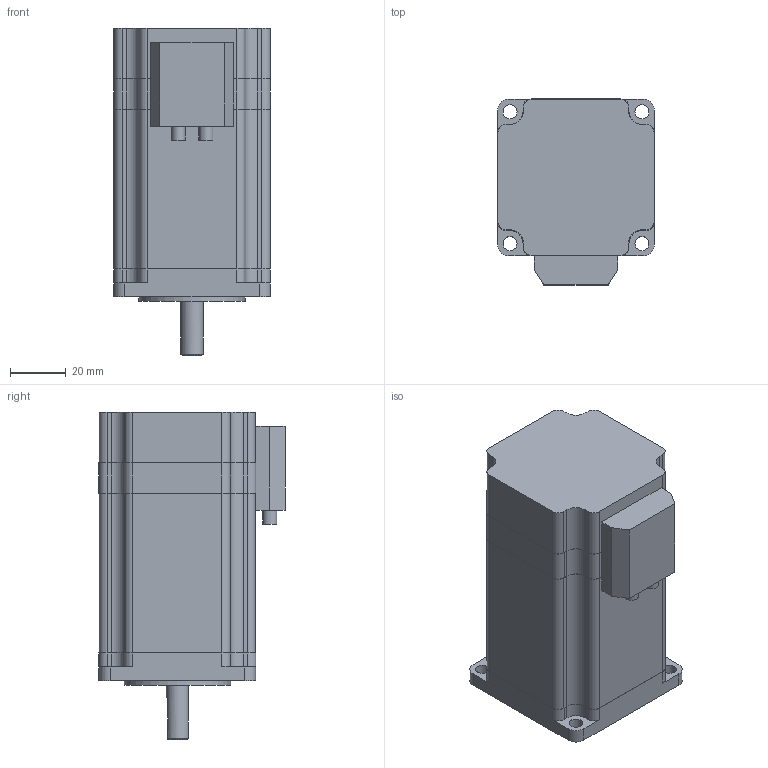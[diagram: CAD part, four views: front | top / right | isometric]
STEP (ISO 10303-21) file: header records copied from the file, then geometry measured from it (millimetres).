
FILE_DESCRIPTION(('STEP AP203'), '1');
FILE_NAME('Äâèãàòåëü øàãîâûé ñ ýíêîäåðîì PL57H80430-D8-1K', '', ('UNSPECIFIED'), ('UNSPECIFIED'), 'ASCON STEP Converter 1.6', 'ASCON Math Kernel', '');
FILE_SCHEMA(('CONFIG_CONTROL_DESIGN'));
Length unit declared in the file: millimetre
Bounding box: 56 x 66.5 x 117 mm (x, y, z)
Volume: 281289.8 mm3; surface area: 31624.6 mm2
Topology: 3 solids, 3 shells, 136 faces, 370 edges, 245 vertices
Faces by surface type: plane 75, cylinder 60, cone 1
Full cylindrical faces by diameter (mm): 5 x6, 8 x1, 38.1 x1
Entity records: 5488 total; most frequent: CARTESIAN_POINT 803, DIRECTION 757, ORIENTED_EDGE 724, EDGE_CURVE 362, AXIS2_PLACEMENT_3D 260, VERTEX_POINT 245, LINE 237, VECTOR 237
